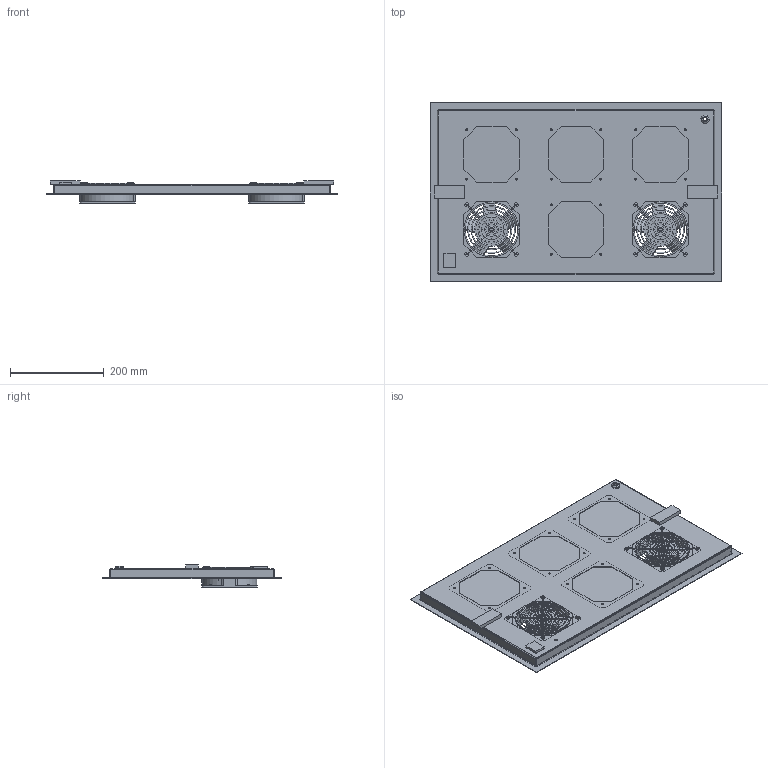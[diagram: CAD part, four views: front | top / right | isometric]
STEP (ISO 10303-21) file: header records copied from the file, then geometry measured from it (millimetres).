
FILE_DESCRIPTION (( 'STEP AP203' ), '1' );
FILE_NAME ('FC 02.230 PD Ïàíåëü âåíòèëÿòîðíàÿ.STEP', '2013-01-15T13:13:06', ( 'Àëåêñàíäð' ), ( 'Ïðîâåíòî' ), 'SwSTEP 2.0', 'SolidWorks 2012', '' );
FILE_SCHEMA (( 'CONFIG_CONTROL_DESIGN' ));
Length unit declared in the file: millimetre
Products named in the file (3): FC 02.230 PD Ïàíåëü âåíòèëÿòîðíàÿ-1; FC 02.230 PD Ïàíåëü âåíòèëÿòîðíàÿ; Ðåøåòêà äëÿ âåíòèëÿòîðà 120ìì
Assembly tree (3 placements, depth 2):
  FC 02.230 PD Ïàíåëü âåíòèëÿòîðíàÿ
    FC 02.230 PD Ïàíåëü âåíòèëÿòîðíàÿ-1
    Ðåøåòêà äëÿ âåíòèëÿòîðà 120ìì  x2
Bounding box: 620 x 380 x 47.7 mm (x, y, z)
Volume: 728854.8 mm3; surface area: 713170.1 mm2
Topology: 14 solids, 14 shells, 1129 faces, 2912 edges, 1800 vertices
Faces by surface type: plane 511, cylinder 326, torus 222, bspline 48, cone 14, sphere 8
Entity records: 35591 total; most frequent: CARTESIAN_POINT 10647, DIRECTION 5112, ORIENTED_EDGE 5056, EDGE_CURVE 2528, AXIS2_PLACEMENT_3D 1857, VERTEX_POINT 1584, VECTOR 1398, LINE 1398
